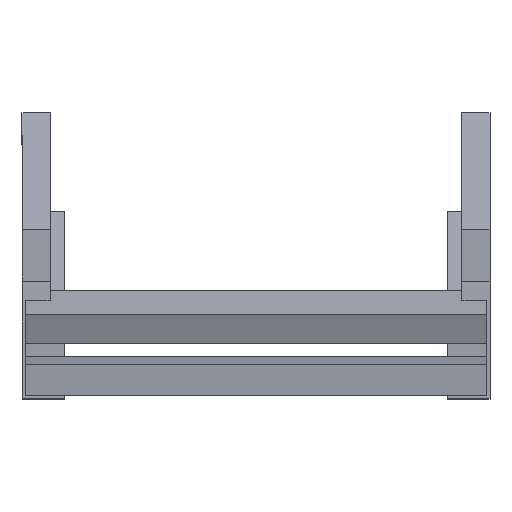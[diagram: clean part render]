
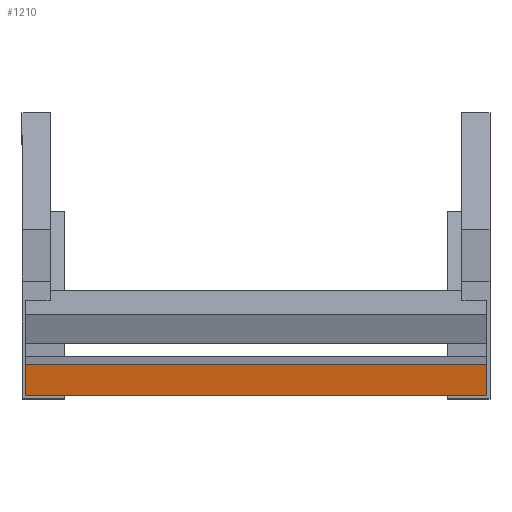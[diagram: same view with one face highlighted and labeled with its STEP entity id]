
A CAD part, top view. The second image highlights one B-rep face of the part: STEP entity #1210.
In plain terms, the highlighted planar face has unit normal (0, -0.131, 0.991) as drawn and (0, 0, 1) by its records, which use the part's own axes.
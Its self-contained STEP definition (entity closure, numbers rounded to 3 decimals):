
#2 = ORIENTED_EDGE ( 'NONE', *, *, #568, .F. ) ;
#4 = CARTESIAN_POINT ( 'NONE',  ( 148., 0., 20.25 ) ) ;
#42 = ORIENTED_EDGE ( 'NONE', *, *, #506, .F. ) ;
#45 = LINE ( 'NONE', #696, #1221 ) ;
#88 = CARTESIAN_POINT ( 'NONE',  ( -148., 0., 20.25 ) ) ;
#116 = LINE ( 'NONE', #267, #237 ) ;
#123 = LINE ( 'NONE', #586, #1419 ) ;
#162 = EDGE_LOOP ( 'NONE', ( #819, #42, #2, #211 ) ) ;
#211 = ORIENTED_EDGE ( 'NONE', *, *, #619, .T. ) ;
#237 = VECTOR ( 'NONE', #926, 1000. ) ;
#267 = CARTESIAN_POINT ( 'NONE',  ( 148., 20., 20.25 ) ) ;
#286 = PLANE ( 'NONE',  #578 ) ;
#304 = VERTEX_POINT ( 'NONE', #955 ) ;
#342 = EDGE_CURVE ( 'NONE', #860, #725, #123, .T. ) ;
#467 = LINE ( 'NONE', #4, #829 ) ;
#502 = DIRECTION ( 'NONE',  ( 0., 0., -1. ) ) ;
#506 = EDGE_CURVE ( 'NONE', #304, #725, #467, .T. ) ;
#568 = EDGE_CURVE ( 'NONE', #954, #304, #45, .T. ) ;
#578 = AXIS2_PLACEMENT_3D ( 'NONE', #749, #502, #1337 ) ;
#586 = CARTESIAN_POINT ( 'NONE',  ( -148., 20., 20.25 ) ) ;
#619 = EDGE_CURVE ( 'NONE', #954, #860, #116, .T. ) ;
#696 = CARTESIAN_POINT ( 'NONE',  ( 148., 20., 20.25 ) ) ;
#725 = VERTEX_POINT ( 'NONE', #88 ) ;
#749 = CARTESIAN_POINT ( 'NONE',  ( 148., 20., 20.25 ) ) ;
#819 = ORIENTED_EDGE ( 'NONE', *, *, #342, .T. ) ;
#829 = VECTOR ( 'NONE', #1396, 1000. ) ;
#860 = VERTEX_POINT ( 'NONE', #1274 ) ;
#926 = DIRECTION ( 'NONE',  ( -1., 0., 0. ) ) ;
#954 = VERTEX_POINT ( 'NONE', #1255 ) ;
#955 = CARTESIAN_POINT ( 'NONE',  ( 148., 0., 20.25 ) ) ;
#1149 = DIRECTION ( 'NONE',  ( 0., -1., 0. ) ) ;
#1210 = ADVANCED_FACE ( 'NONE', ( #1446 ), #286, .F. ) ;
#1221 = VECTOR ( 'NONE', #1149, 1000. ) ;
#1255 = CARTESIAN_POINT ( 'NONE',  ( 148., 20., 20.25 ) ) ;
#1274 = CARTESIAN_POINT ( 'NONE',  ( -148., 20., 20.25 ) ) ;
#1337 = DIRECTION ( 'NONE',  ( 0., 1., 0. ) ) ;
#1395 = DIRECTION ( 'NONE',  ( 0., -1., 0. ) ) ;
#1396 = DIRECTION ( 'NONE',  ( -1., 0., 0. ) ) ;
#1419 = VECTOR ( 'NONE', #1395, 1000. ) ;
#1446 = FACE_OUTER_BOUND ( 'NONE', #162, .T. ) ;
